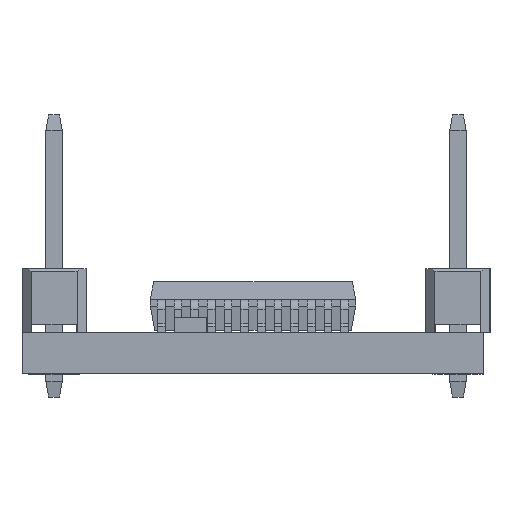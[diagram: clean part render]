
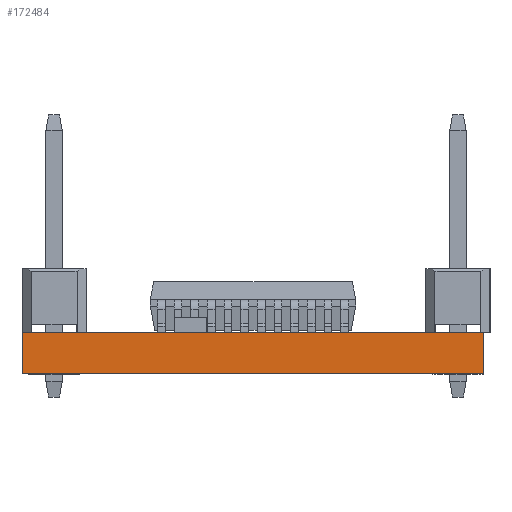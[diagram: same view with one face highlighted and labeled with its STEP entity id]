
A CAD part, left-side view. The second image highlights one B-rep face of the part: STEP entity #172484.
In plain terms, the highlighted planar face has unit normal (-1, 0, 0).
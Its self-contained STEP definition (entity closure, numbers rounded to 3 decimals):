
#4403 = ORIENTED_EDGE ( 'NONE', *, *, #16786, .T. ) ;
#5119 = CARTESIAN_POINT ( 'NONE',  ( -20.5, 9., 0. ) ) ;
#7314 = CARTESIAN_POINT ( 'NONE',  ( -20.5, -9., 0. ) ) ;
#11110 = CARTESIAN_POINT ( 'NONE',  ( -20.5, 0., 0.8 ) ) ;
#16786 = EDGE_CURVE ( 'NONE', #38771, #149338, #52328, .T. ) ;
#20951 = DIRECTION ( 'NONE',  ( 1., 0., 0. ) ) ;
#26227 = VECTOR ( 'NONE', #148590, 1000. ) ;
#30605 = LINE ( 'NONE', #74293, #124848 ) ;
#33240 = VECTOR ( 'NONE', #38669, 1000. ) ;
#34134 = LINE ( 'NONE', #5119, #41288 ) ;
#35850 = ORIENTED_EDGE ( 'NONE', *, *, #65153, .T. ) ;
#36343 = PLANE ( 'NONE',  #40488 ) ;
#37876 = EDGE_LOOP ( 'NONE', ( #61334, #35850, #4403, #167573 ) ) ;
#38669 = DIRECTION ( 'NONE',  ( 0., 0., 1. ) ) ;
#38771 = VERTEX_POINT ( 'NONE', #75313 ) ;
#40488 = AXIS2_PLACEMENT_3D ( 'NONE', #7314, #20951, #91039 ) ;
#41288 = VECTOR ( 'NONE', #76028, 1000. ) ;
#46981 = DIRECTION ( 'NONE',  ( 0., -1., 0. ) ) ;
#47867 = CARTESIAN_POINT ( 'NONE',  ( -20.5, 9., 0.8 ) ) ;
#52328 = LINE ( 'NONE', #137928, #33240 ) ;
#54789 = LINE ( 'NONE', #11110, #26227 ) ;
#61334 = ORIENTED_EDGE ( 'NONE', *, *, #112145, .F. ) ;
#62362 = EDGE_CURVE ( 'NONE', #65208, #149338, #54789, .T. ) ;
#65153 = EDGE_CURVE ( 'NONE', #167918, #38771, #30605, .T. ) ;
#65208 = VERTEX_POINT ( 'NONE', #47867 ) ;
#74293 = CARTESIAN_POINT ( 'NONE',  ( -20.5, 0., -0.8 ) ) ;
#75313 = CARTESIAN_POINT ( 'NONE',  ( -20.5, -9., -0.8 ) ) ;
#76028 = DIRECTION ( 'NONE',  ( 0., 0., 1. ) ) ;
#80977 = CARTESIAN_POINT ( 'NONE',  ( -20.5, -9., 0.8 ) ) ;
#91039 = DIRECTION ( 'NONE',  ( 0., 1., 0. ) ) ;
#112145 = EDGE_CURVE ( 'NONE', #167918, #65208, #34134, .T. ) ;
#117478 = FACE_OUTER_BOUND ( 'NONE', #37876, .T. ) ;
#124848 = VECTOR ( 'NONE', #46981, 1000. ) ;
#137928 = CARTESIAN_POINT ( 'NONE',  ( -20.5, -9., 0. ) ) ;
#148590 = DIRECTION ( 'NONE',  ( 0., -1., 0. ) ) ;
#149338 = VERTEX_POINT ( 'NONE', #80977 ) ;
#166985 = CARTESIAN_POINT ( 'NONE',  ( -20.5, 9., -0.8 ) ) ;
#167573 = ORIENTED_EDGE ( 'NONE', *, *, #62362, .F. ) ;
#167918 = VERTEX_POINT ( 'NONE', #166985 ) ;
#172484 = ADVANCED_FACE ( 'NONE', ( #117478 ), #36343, .F. ) ;
